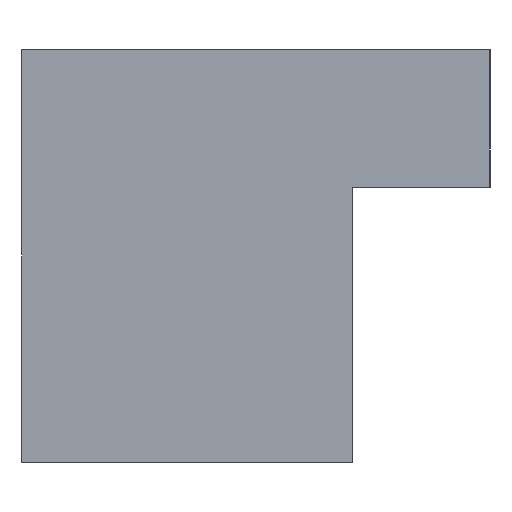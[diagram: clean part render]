
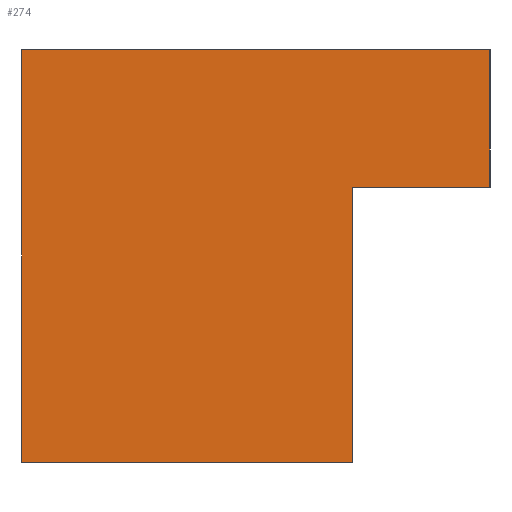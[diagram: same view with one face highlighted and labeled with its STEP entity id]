
A CAD part, left-side view. The second image highlights one B-rep face of the part: STEP entity #274.
In plain terms, the highlighted planar face has unit normal (-1, 0, 0).
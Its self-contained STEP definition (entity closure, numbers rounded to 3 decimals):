
#9 = EDGE_CURVE ( 'NONE', #10, #457, #288, .T. ) ;
#10 = VERTEX_POINT ( 'NONE', #431 ) ;
#21 = ORIENTED_EDGE ( 'NONE', *, *, #308, .F. ) ;
#70 = CARTESIAN_POINT ( 'NONE',  ( -45., -12., 10. ) ) ;
#95 = DIRECTION ( 'NONE',  ( 0., 0., -1. ) ) ;
#102 = LINE ( 'NONE', #528, #119 ) ;
#110 = VECTOR ( 'NONE', #186, 1000. ) ;
#116 = LINE ( 'NONE', #137, #110 ) ;
#117 = CARTESIAN_POINT ( 'NONE',  ( -45., 0., 15. ) ) ;
#119 = VECTOR ( 'NONE', #250, 1000. ) ;
#120 = AXIS2_PLACEMENT_3D ( 'NONE', #560, #234, #95 ) ;
#121 = DIRECTION ( 'NONE',  ( 0., 1., 0. ) ) ;
#122 = PLANE ( 'NONE',  #120 ) ;
#129 = DIRECTION ( 'NONE',  ( 0., 0., 1. ) ) ;
#137 = CARTESIAN_POINT ( 'NONE',  ( -45., -17., 0. ) ) ;
#138 = VECTOR ( 'NONE', #129, 1000. ) ;
#141 = CARTESIAN_POINT ( 'NONE',  ( -45., -12., 0. ) ) ;
#145 = LINE ( 'NONE', #381, #138 ) ;
#161 = VECTOR ( 'NONE', #416, 1000. ) ;
#164 = LINE ( 'NONE', #264, #161 ) ;
#174 = FACE_OUTER_BOUND ( 'NONE', #572, .T. ) ;
#186 = DIRECTION ( 'NONE',  ( 0., 0., -1. ) ) ;
#192 = VECTOR ( 'NONE', #121, 1000. ) ;
#198 = DIRECTION ( 'NONE',  ( 0., 1., 0. ) ) ;
#199 = LINE ( 'NONE', #306, #192 ) ;
#207 = EDGE_CURVE ( 'NONE', #525, #421, #199, .T. ) ;
#234 = DIRECTION ( 'NONE',  ( 1., 0., 0. ) ) ;
#250 = DIRECTION ( 'NONE',  ( 0., 0., -1. ) ) ;
#264 = CARTESIAN_POINT ( 'NONE',  ( -45., -17., 15. ) ) ;
#274 = ADVANCED_FACE ( 'NONE', ( #174 ), #122, .F. ) ;
#287 = VECTOR ( 'NONE', #198, 1000. ) ;
#288 = LINE ( 'NONE', #556, #287 ) ;
#306 = CARTESIAN_POINT ( 'NONE',  ( -45., 0., 0. ) ) ;
#308 = EDGE_CURVE ( 'NONE', #495, #337, #164, .T. ) ;
#331 = EDGE_CURVE ( 'NONE', #421, #495, #145, .T. ) ;
#336 = ORIENTED_EDGE ( 'NONE', *, *, #9, .F. ) ;
#337 = VERTEX_POINT ( 'NONE', #503 ) ;
#351 = EDGE_CURVE ( 'NONE', #337, #10, #116, .T. ) ;
#381 = CARTESIAN_POINT ( 'NONE',  ( -45., 0., 15. ) ) ;
#382 = EDGE_CURVE ( 'NONE', #457, #525, #102, .T. ) ;
#388 = CARTESIAN_POINT ( 'NONE',  ( -45., 0., 0. ) ) ;
#416 = DIRECTION ( 'NONE',  ( 0., -1., 0. ) ) ;
#421 = VERTEX_POINT ( 'NONE', #388 ) ;
#431 = CARTESIAN_POINT ( 'NONE',  ( -45., -17., 10. ) ) ;
#451 = ORIENTED_EDGE ( 'NONE', *, *, #207, .F. ) ;
#452 = ORIENTED_EDGE ( 'NONE', *, *, #382, .F. ) ;
#453 = ORIENTED_EDGE ( 'NONE', *, *, #351, .F. ) ;
#457 = VERTEX_POINT ( 'NONE', #70 ) ;
#495 = VERTEX_POINT ( 'NONE', #117 ) ;
#501 = ORIENTED_EDGE ( 'NONE', *, *, #331, .F. ) ;
#503 = CARTESIAN_POINT ( 'NONE',  ( -45., -17., 15. ) ) ;
#525 = VERTEX_POINT ( 'NONE', #141 ) ;
#528 = CARTESIAN_POINT ( 'NONE',  ( -45., -12., 0. ) ) ;
#556 = CARTESIAN_POINT ( 'NONE',  ( -45., 0., 10. ) ) ;
#560 = CARTESIAN_POINT ( 'NONE',  ( -45., 0., 0. ) ) ;
#572 = EDGE_LOOP ( 'NONE', ( #501, #451, #452, #336, #453, #21 ) ) ;
